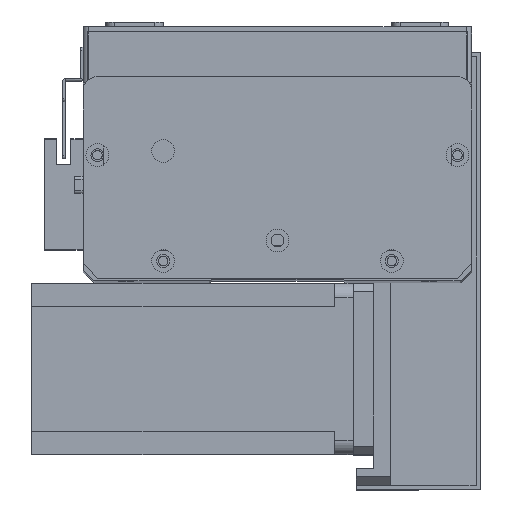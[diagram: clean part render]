
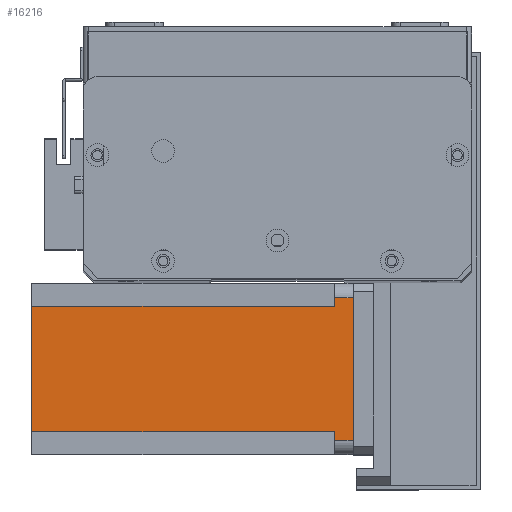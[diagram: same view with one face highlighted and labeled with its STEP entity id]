
A CAD part, top view. The second image highlights one B-rep face of the part: STEP entity #16216.
In plain terms, the highlighted planar face has unit normal (0, 0, 1) as drawn and (0, -1, 0) by its records, which use the part's own axes.
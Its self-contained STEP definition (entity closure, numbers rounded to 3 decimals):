
#203 = LINE ( 'NONE', #2675, #5478 ) ;
#486 = LINE ( 'NONE', #24358, #18282 ) ;
#1427 = DIRECTION ( 'NONE',  ( 0., 0., -1. ) ) ;
#1587 = DIRECTION ( 'NONE',  ( 0., 0., 1. ) ) ;
#2205 = ORIENTED_EDGE ( 'NONE', *, *, #20161, .T. ) ;
#2675 = CARTESIAN_POINT ( 'NONE',  ( 8., 0., -6.5 ) ) ;
#2791 = ORIENTED_EDGE ( 'NONE', *, *, #21653, .T. ) ;
#3024 = VERTEX_POINT ( 'NONE', #13111 ) ;
#3593 = VERTEX_POINT ( 'NONE', #27538 ) ;
#3617 = DIRECTION ( 'NONE',  ( 1., 0., 0. ) ) ;
#3843 = ORIENTED_EDGE ( 'NONE', *, *, #17768, .F. ) ;
#4334 = CARTESIAN_POINT ( 'NONE',  ( 52., 0., -112.5 ) ) ;
#4475 = LINE ( 'NONE', #10262, #22207 ) ;
#4655 = VECTOR ( 'NONE', #25631, 1000. ) ;
#4918 = DIRECTION ( 'NONE',  ( -1., 0., 0. ) ) ;
#5194 = LINE ( 'NONE', #9447, #22221 ) ;
#5367 = LINE ( 'NONE', #23458, #4655 ) ;
#5478 = VECTOR ( 'NONE', #4918, 1000. ) ;
#7391 = PLANE ( 'NONE',  #22289 ) ;
#7444 = LINE ( 'NONE', #27878, #18542 ) ;
#8151 = CARTESIAN_POINT ( 'NONE',  ( 52., 0., -6.5 ) ) ;
#8317 = ORIENTED_EDGE ( 'NONE', *, *, #22022, .T. ) ;
#8970 = ORIENTED_EDGE ( 'NONE', *, *, #26504, .F. ) ;
#9447 = CARTESIAN_POINT ( 'NONE',  ( 5., 0., -112.5 ) ) ;
#9664 = CARTESIAN_POINT ( 'NONE',  ( 0., 0., -112.5 ) ) ;
#9707 = VERTEX_POINT ( 'NONE', #17844 ) ;
#10262 = CARTESIAN_POINT ( 'NONE',  ( 0., 0., 0. ) ) ;
#10436 = CARTESIAN_POINT ( 'NONE',  ( 55., 0., -112.5 ) ) ;
#10820 = VERTEX_POINT ( 'NONE', #26168 ) ;
#11912 = DIRECTION ( 'NONE',  ( 0., -1., 0. ) ) ;
#11953 = FACE_OUTER_BOUND ( 'NONE', #25644, .T. ) ;
#12414 = DIRECTION ( 'NONE',  ( 1., 0., 0. ) ) ;
#12729 = VECTOR ( 'NONE', #1587, 1000. ) ;
#12951 = CARTESIAN_POINT ( 'NONE',  ( 55., 0., -6.5 ) ) ;
#13111 = CARTESIAN_POINT ( 'NONE',  ( 8., 0., -6.5 ) ) ;
#14322 = ORIENTED_EDGE ( 'NONE', *, *, #24312, .F. ) ;
#14456 = ORIENTED_EDGE ( 'NONE', *, *, #25784, .T. ) ;
#16216 = ADVANCED_FACE ( 'NONE', ( #11953 ), #7391, .T. ) ;
#16524 = VERTEX_POINT ( 'NONE', #12951 ) ;
#16884 = VERTEX_POINT ( 'NONE', #18407 ) ;
#17315 = LINE ( 'NONE', #8151, #22424 ) ;
#17768 = EDGE_CURVE ( 'NONE', #22350, #3593, #4475, .T. ) ;
#17828 = DIRECTION ( 'NONE',  ( 0., 0., 1. ) ) ;
#17844 = CARTESIAN_POINT ( 'NONE',  ( 52., 0., -6.5 ) ) ;
#18026 = VERTEX_POINT ( 'NONE', #4334 ) ;
#18282 = VECTOR ( 'NONE', #17828, 1000. ) ;
#18407 = CARTESIAN_POINT ( 'NONE',  ( 5., 0., -6.5 ) ) ;
#18542 = VECTOR ( 'NONE', #1427, 1000. ) ;
#18577 = LINE ( 'NONE', #10436, #12729 ) ;
#20161 = EDGE_CURVE ( 'NONE', #9707, #16524, #17315, .T. ) ;
#21653 = EDGE_CURVE ( 'NONE', #16524, #3593, #18577, .T. ) ;
#22022 = EDGE_CURVE ( 'NONE', #22350, #16884, #5194, .T. ) ;
#22207 = VECTOR ( 'NONE', #12414, 1000. ) ;
#22221 = VECTOR ( 'NONE', #26965, 1000. ) ;
#22289 = AXIS2_PLACEMENT_3D ( 'NONE', #9664, #11912, #27187 ) ;
#22350 = VERTEX_POINT ( 'NONE', #28190 ) ;
#22424 = VECTOR ( 'NONE', #3617, 1000. ) ;
#23220 = EDGE_CURVE ( 'NONE', #3024, #16884, #203, .T. ) ;
#23458 = CARTESIAN_POINT ( 'NONE',  ( 0., 0., -112.5 ) ) ;
#24312 = EDGE_CURVE ( 'NONE', #10820, #3024, #486, .T. ) ;
#24358 = CARTESIAN_POINT ( 'NONE',  ( 8., 0., -112.5 ) ) ;
#25631 = DIRECTION ( 'NONE',  ( 1., 0., 0. ) ) ;
#25644 = EDGE_LOOP ( 'NONE', ( #2205, #2791, #3843, #8317, #28239, #14322, #14456, #8970 ) ) ;
#25784 = EDGE_CURVE ( 'NONE', #10820, #18026, #5367, .T. ) ;
#26168 = CARTESIAN_POINT ( 'NONE',  ( 8., 0., -112.5 ) ) ;
#26504 = EDGE_CURVE ( 'NONE', #9707, #18026, #7444, .T. ) ;
#26965 = DIRECTION ( 'NONE',  ( 0., 0., -1. ) ) ;
#27187 = DIRECTION ( 'NONE',  ( 0., 0., -1. ) ) ;
#27538 = CARTESIAN_POINT ( 'NONE',  ( 55., 0., 0. ) ) ;
#27878 = CARTESIAN_POINT ( 'NONE',  ( 52., 0., -112.5 ) ) ;
#28190 = CARTESIAN_POINT ( 'NONE',  ( 5., 0., 0. ) ) ;
#28239 = ORIENTED_EDGE ( 'NONE', *, *, #23220, .F. ) ;
